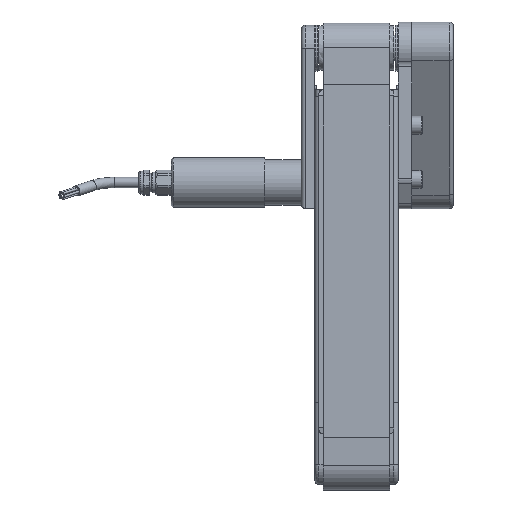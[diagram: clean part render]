
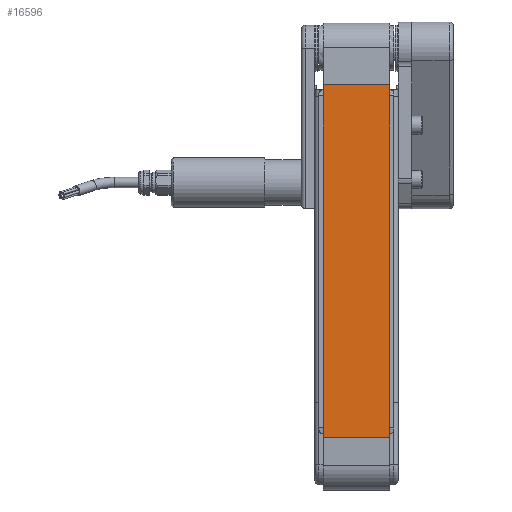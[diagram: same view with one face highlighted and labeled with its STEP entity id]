
A CAD part, front view. The second image highlights one B-rep face of the part: STEP entity #16596.
In plain terms, the highlighted planar face has unit normal (0, -1, 0).
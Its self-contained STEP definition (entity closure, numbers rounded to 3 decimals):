
#2460=FACE_OUTER_BOUND('',#3442,.T.);
#3442=EDGE_LOOP('',(#13579,#13580,#13581,#13582));
#4667=LINE('',#28445,#5865);
#4673=LINE('',#28459,#5871);
#4674=LINE('',#28462,#5872);
#4675=LINE('',#28463,#5873);
#5865=VECTOR('',#21968,10.);
#5871=VECTOR('',#21982,10.);
#5872=VECTOR('',#21985,10.);
#5873=VECTOR('',#21986,10.);
#7311=VERTEX_POINT('',#28435);
#7315=VERTEX_POINT('',#28443);
#7319=VERTEX_POINT('',#28457);
#7320=VERTEX_POINT('',#28461);
#9468=EDGE_CURVE('',#7311,#7315,#4667,.T.);
#9475=EDGE_CURVE('',#7315,#7319,#4673,.T.);
#9476=EDGE_CURVE('',#7319,#7320,#4674,.T.);
#9477=EDGE_CURVE('',#7311,#7320,#4675,.T.);
#13579=ORIENTED_EDGE('',*,*,#9476,.T.);
#13580=ORIENTED_EDGE('',*,*,#9477,.F.);
#13581=ORIENTED_EDGE('',*,*,#9468,.T.);
#13582=ORIENTED_EDGE('',*,*,#9475,.T.);
#14960=PLANE('',#18083);
#16596=ADVANCED_FACE('',(#2460),#14960,.T.);
#18083=AXIS2_PLACEMENT_3D('',#28460,#21983,#21984);
#21968=DIRECTION('',(0.,0.,-1.));
#21982=DIRECTION('',(1.,0.,0.));
#21983=DIRECTION('center_axis',(0.,-1.,0.));
#21984=DIRECTION('ref_axis',(1.,0.,0.));
#21985=DIRECTION('',(0.,0.,1.));
#21986=DIRECTION('',(1.,0.,0.));
#28435=CARTESIAN_POINT('',(-16.,-12.5,78.814));
#28443=CARTESIAN_POINT('',(-16.,-12.5,-90.219));
#28445=CARTESIAN_POINT('',(-16.,-12.5,78.814));
#28457=CARTESIAN_POINT('',(16.,-12.5,-90.219));
#28459=CARTESIAN_POINT('',(0.,-12.5,-90.219));
#28460=CARTESIAN_POINT('Origin',(0.,-12.5,
-90.219));
#28461=CARTESIAN_POINT('',(16.,-12.5,78.814));
#28462=CARTESIAN_POINT('',(16.,-12.5,78.814));
#28463=CARTESIAN_POINT('',(0.,-12.5,78.814));
